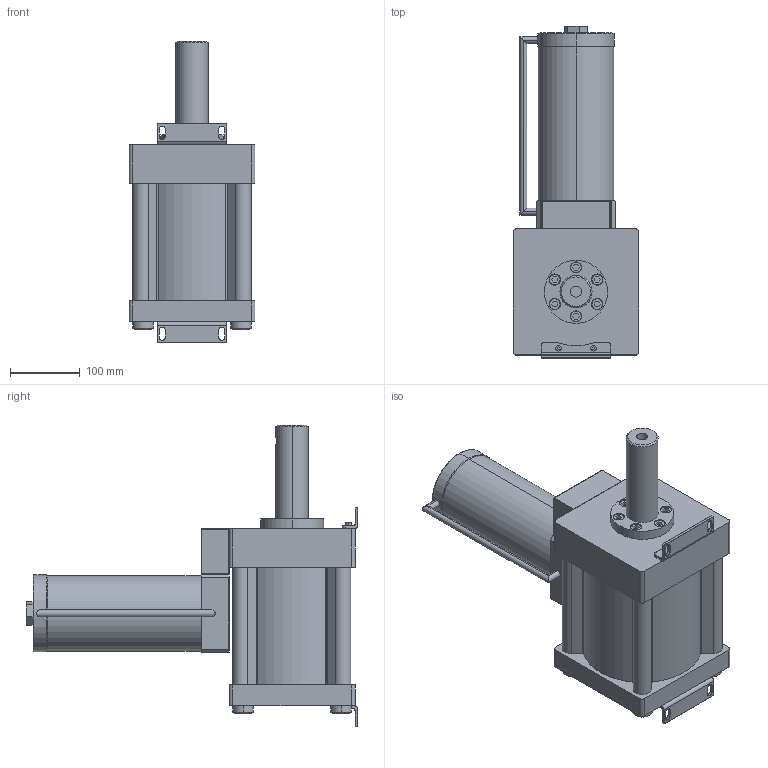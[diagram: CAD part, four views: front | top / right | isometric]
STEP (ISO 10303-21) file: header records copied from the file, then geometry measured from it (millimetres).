
FILE_DESCRIPTION (( 'STEP AP203' ), '1' );
FILE_NAME ('MHB-1628N70+YT63YT80YT100YT125.STEP', '2016-03-19T03:49:04', ( 'WIN' ), ( '' ), 'SwSTEP 2.0', 'SolidWorks 2014', '' );
FILE_SCHEMA (( 'CONFIG_CONTROL_DESIGN' ));
Length unit declared in the file: millimetre
Products named in the file (1): MHB-1628N70+YT63YT80YT100YT125
Bounding box: 180 x 474 x 431 mm (x, y, z)
Volume: 5012737.1 mm3; surface area: 717137.6 mm2
Topology: 1 solids, 17 shells, 440 faces, 1016 edges, 662 vertices
Faces by surface type: plane 267, cylinder 159, cone 10, torus 4
Entity records: 12731 total; most frequent: CARTESIAN_POINT 2401, DIRECTION 2192, ORIENTED_EDGE 2032, EDGE_CURVE 1016, AXIS2_PLACEMENT_3D 761, LINE 670, VECTOR 670, VERTEX_POINT 662
